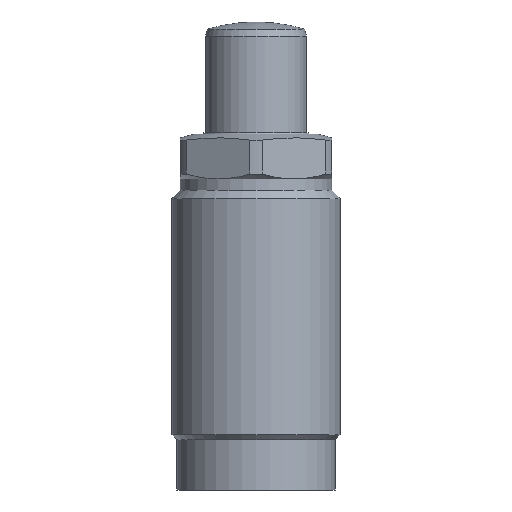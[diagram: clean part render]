
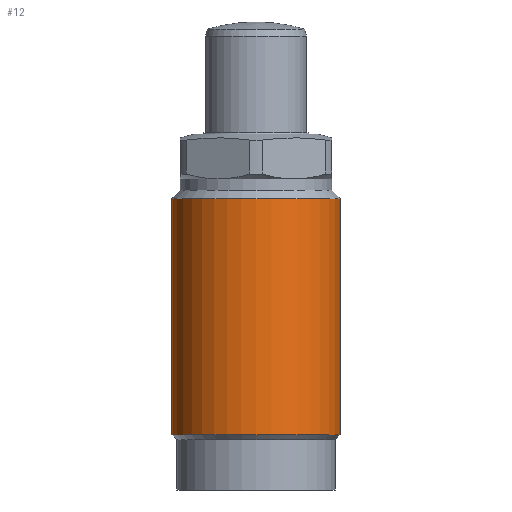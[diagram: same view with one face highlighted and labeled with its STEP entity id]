
A CAD part, front view. The second image highlights one B-rep face of the part: STEP entity #12.
In plain terms, the highlighted cylindrical face has radius 15 mm (diameter 30 mm), a partial arc.
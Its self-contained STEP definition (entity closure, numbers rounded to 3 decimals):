
#12 = ADVANCED_FACE ( 'NONE', ( #2177 ), #2180, .T. ) ;
#159 = CARTESIAN_POINT ( 'NONE',  ( 15., 0., -53.65 ) ) ;
#172 = CARTESIAN_POINT ( 'NONE',  ( -15., 0., -53.65 ) ) ;
#173 = CARTESIAN_POINT ( 'NONE',  ( 15., 0., -11.5 ) ) ;
#174 = CARTESIAN_POINT ( 'NONE',  ( -15., 0., -11.5 ) ) ;
#346 = CARTESIAN_POINT ( 'NONE',  ( 0., 0., -53.65 ) ) ;
#347 = DIRECTION ( 'NONE',  ( 0., 0., 1. ) ) ;
#348 = DIRECTION ( 'NONE',  ( 1., 0., 0. ) ) ;
#349 = CARTESIAN_POINT ( 'NONE',  ( 0., 0., -11.5 ) ) ;
#350 = DIRECTION ( 'NONE',  ( 0., 0., 1. ) ) ;
#351 = DIRECTION ( 'NONE',  ( 1., 0., 0. ) ) ;
#1087 = LINE ( 'NONE', #1093, #1272 ) ;
#1093 = CARTESIAN_POINT ( 'NONE',  ( -15., 0., 3.903 ) ) ;
#1094 = DIRECTION ( 'NONE',  ( 0., 0., 1. ) ) ;
#1095 = LINE ( 'NONE', #1096, #1275 ) ;
#1096 = CARTESIAN_POINT ( 'NONE',  ( 15., 0., 3.903 ) ) ;
#1097 = DIRECTION ( 'NONE',  ( 0., 0., 1. ) ) ;
#1188 = ORIENTED_EDGE ( 'NONE', *, *, #2242, .F. ) ;
#1189 = ORIENTED_EDGE ( 'NONE', *, *, #1864, .T. ) ;
#1190 = ORIENTED_EDGE ( 'NONE', *, *, #2241, .T. ) ;
#1191 = ORIENTED_EDGE ( 'NONE', *, *, #1863, .F. ) ;
#1272 = VECTOR ( 'NONE', #1094, 1000. ) ;
#1275 = VECTOR ( 'NONE', #1097, 1000. ) ;
#1343 = CIRCLE ( 'NONE', #1346, 15. ) ;
#1345 = CIRCLE ( 'NONE', #1348, 15. ) ;
#1346 = AXIS2_PLACEMENT_3D ( 'NONE', #346, #347, #348 ) ;
#1348 = AXIS2_PLACEMENT_3D ( 'NONE', #349, #350, #351 ) ;
#1532 = AXIS2_PLACEMENT_3D ( 'NONE', #2178, #2175, #2181 ) ;
#1863 = EDGE_CURVE ( 'NONE', #2026, #2028, #1087, .T. ) ;
#1864 = EDGE_CURVE ( 'NONE', #2012, #2027, #1095, .T. ) ;
#2012 = VERTEX_POINT ( 'NONE', #159 ) ;
#2026 = VERTEX_POINT ( 'NONE', #172 ) ;
#2027 = VERTEX_POINT ( 'NONE', #173 ) ;
#2028 = VERTEX_POINT ( 'NONE', #174 ) ;
#2100 = EDGE_LOOP ( 'NONE', ( #1191, #1190, #1189, #1188 ) ) ;
#2175 = DIRECTION ( 'NONE',  ( 0., 0., 1. ) ) ;
#2177 = FACE_OUTER_BOUND ( 'NONE', #2100, .T. ) ;
#2178 = CARTESIAN_POINT ( 'NONE',  ( 0., 0., 3.903 ) ) ;
#2180 = CYLINDRICAL_SURFACE ( 'NONE', #1532, 15. ) ;
#2181 = DIRECTION ( 'NONE',  ( 1., 0., 0. ) ) ;
#2241 = EDGE_CURVE ( 'NONE', #2026, #2012, #1343, .T. ) ;
#2242 = EDGE_CURVE ( 'NONE', #2028, #2027, #1345, .T. ) ;
